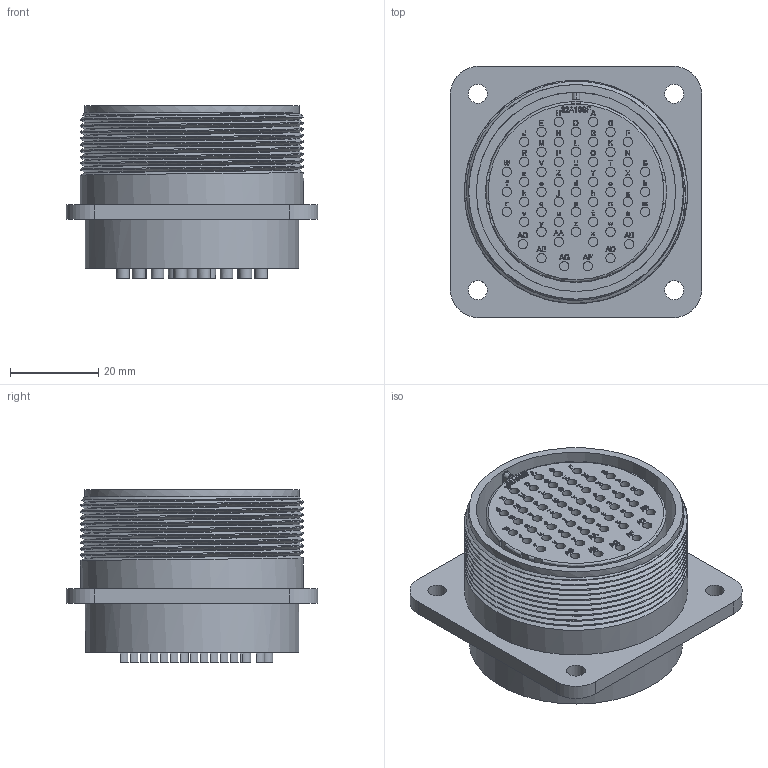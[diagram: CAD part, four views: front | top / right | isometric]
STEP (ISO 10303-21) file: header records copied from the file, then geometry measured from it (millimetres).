
FILE_DESCRIPTION (( 'STEP AP203' ), '1' );
FILE_NAME ('DMS3102A32A-10S.STEP', '2021-03-04T09:22:28', ( '' ), ( '' ), 'SwSTEP 2.0', 'SolidWorks 2018', '' );
FILE_SCHEMA (( 'CONFIG_CONTROL_DESIGN' ));
Products named in the file (1): DMS3102A32A-10S
Bounding box: 56.9 x 56.9 x 39.06 mm (x, y, z)
Volume: 63875.8 mm3; surface area: 30137.4 mm2
Topology: 1 solids, 1 shells, 3417 faces, 9157 edges, 6101 vertices
Faces by surface type: plane 2057, bspline 1038, cylinder 318, torus 3, cone 1
Full cylindrical faces by diameter (mm): 2.11 x54, 4.27 x4, 38.1 x1, 41 x1, 42.93 x1, 45.12 x1, 48.42 x1, 48.6 x1, 50.53 x10
Entity records: 136699 total; most frequent: CARTESIAN_POINT 59398, ORIENTED_EDGE 18106, DIRECTION 11768, EDGE_CURVE 9053, VERTEX_POINT 6073, LINE 5998, VECTOR 5998, EDGE_LOOP 3846
